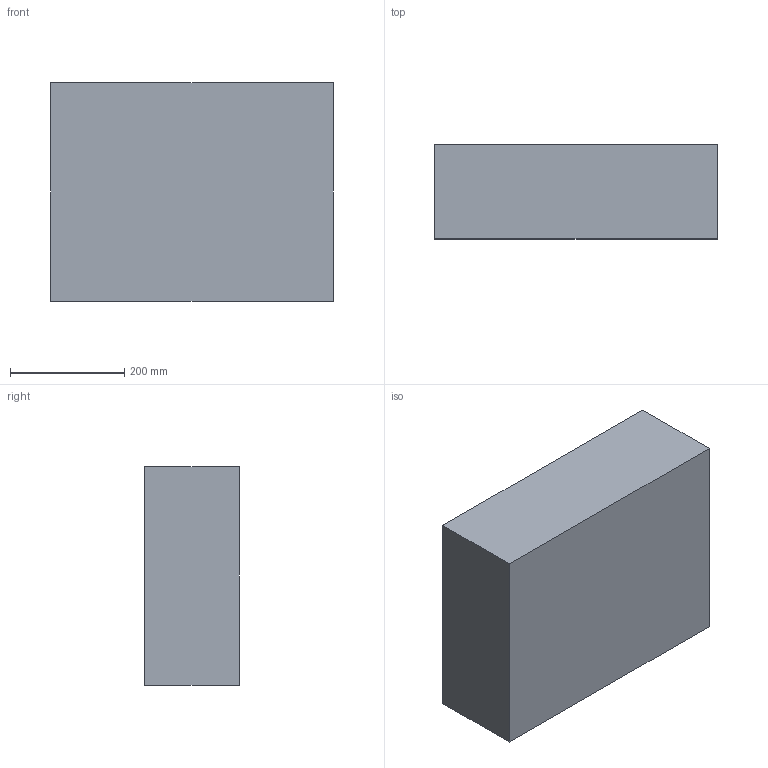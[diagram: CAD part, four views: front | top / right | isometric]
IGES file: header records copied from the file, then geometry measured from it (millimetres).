
Start section: SolidWorks IGES file using analytic representation for surfaces
Global section: file name: C:\working\Cases\1550\1552\1552-931B-CLR.IGS; native system: SolidWorks 2007; preprocessor: SolidWorks 2007; author: cchaiyont; date: 080801.100753; units: inch
Bounding box: 495.06 x 165.1 x 382.03 mm (x, y, z)
Surface area: 897605.5 mm2 (no closed solid volume)
Topology: 0 solids, 0 shells, 153 faces, 2248 edges, 2248 vertices
Faces by surface type: bspline 89, revolution 64
